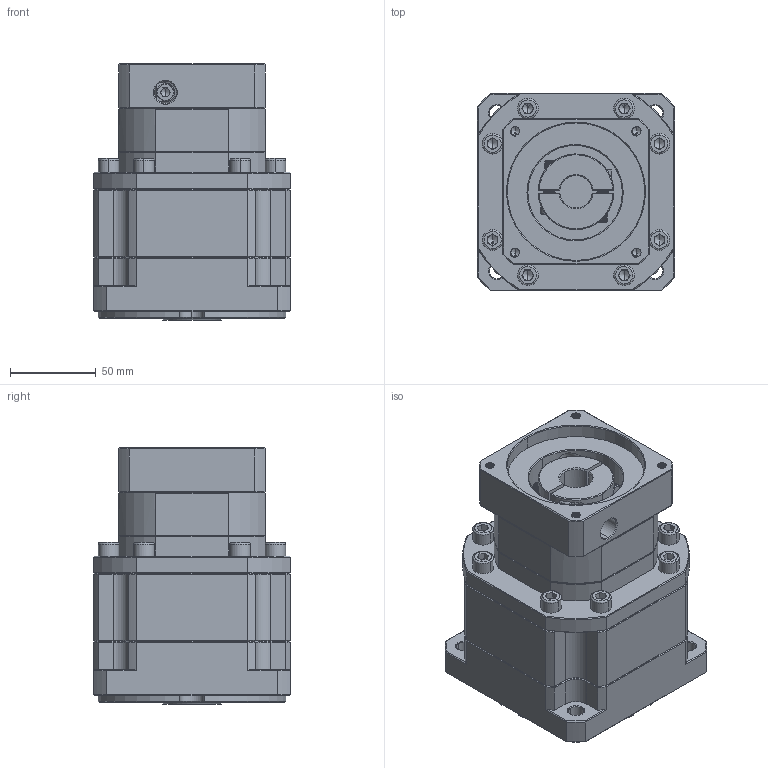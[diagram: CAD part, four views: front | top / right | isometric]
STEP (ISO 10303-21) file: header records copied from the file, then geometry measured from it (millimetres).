
FILE_DESCRIPTION (( 'STEP AP214' ), '1' );
FILE_NAME ('ZB115A-K25-L2-P2-19-80-100-M6.step', '2023-08-26T10:05:01', ( '' ), ( '' ), 'SwSTEP 2.0', 'SolidWorks 2016', '' );
FILE_SCHEMA (( 'AUTOMOTIVE_DESIGN' ));
Length unit declared in the file: millimetre
Products named in the file (1): ZB115A-K25-L2-P2-19-80-100-M6
Bounding box: 115 x 115 x 149 mm (x, y, z)
Volume: 1303568.6 mm3; surface area: 131688.9 mm2
Topology: 5 solids, 6 shells, 2359 faces, 6183 edges, 3926 vertices
Faces by surface type: plane 1183, bspline 418, cylinder 393, cone 350, torus 15
Entity records: 122925 total; most frequent: CARTESIAN_POINT 42320, ORIENTED_EDGE 12294, DIRECTION 9769, EDGE_CURVE 6147, LINE 3989, VECTOR 3989, VERTEX_POINT 3926, AXIS2_PLACEMENT_3D 2890
